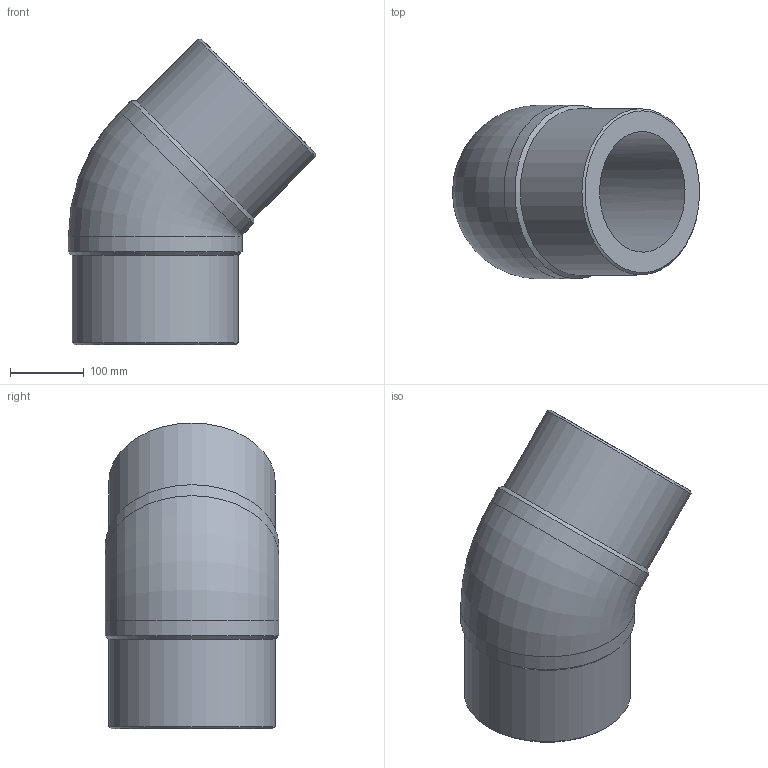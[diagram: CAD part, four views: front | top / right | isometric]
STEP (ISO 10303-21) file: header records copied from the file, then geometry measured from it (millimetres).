
FILE_DESCRIPTION(/* description */ ('Unknown'),/* implementation_level */ '2;1');
FILE_NAME(/* name */ 'G4P225H',/* time_stamp */ '2022-01-17T09:30:22+01:00',/* author */ ('Unknown'),/* organization */ ('Unknown'),/* preprocessor_version */ 'ST-DEVELOPER v18.1',/* originating_system */ 'Solid Edge',/* authorisation */ 'Unknown');
FILE_SCHEMA (('AUTOMOTIVE_DESIGN {1 0 10303 214 3 1 1}'));
Length unit declared in the file: millimetre
Products named in the file (1): G4P225H
Bounding box: 334.23 x 235 x 413.73 mm (x, y, z)
Volume: 7824331.9 mm3; surface area: 517072.6 mm2
Topology: 1 solids, 1 shells, 14 faces, 34 edges, 22 vertices
Faces by surface type: cylinder 6, cone 4, plane 2, torus 2
Full cylindrical faces by diameter (mm): 163.4 x2, 225 x2, 235 x2
Entity records: 370 total; most frequent: CARTESIAN_POINT 70, DIRECTION 60, ORIENTED_EDGE 38, AXIS2_PLACEMENT_3D 30, EDGE_LOOP 27, FACE_BOUND 27, EDGE_CURVE 19, VERTEX_POINT 18
